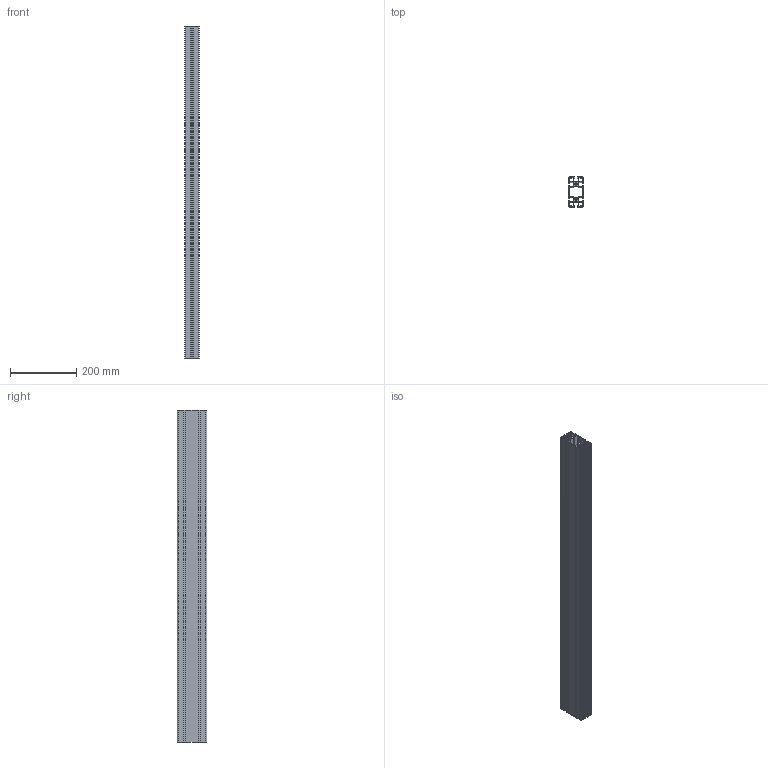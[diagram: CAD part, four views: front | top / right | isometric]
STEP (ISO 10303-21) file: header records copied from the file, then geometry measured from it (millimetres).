
FILE_DESCRIPTION (( 'STEP AP214' ), '1' );
FILE_NAME ('SA01003L.step', '2024-12-03T16:28:17', ( '' ), ( '' ), 'SwSTEP 2.0', 'SolidWorks 2023', '' );
FILE_SCHEMA (( 'AUTOMOTIVE_DESIGN' ));
Length unit declared in the file: millimetre
Products named in the file (1): SA01003L
Bounding box: 45 x 90 x 1000 mm (x, y, z)
Volume: 937566.9 mm3; surface area: 910714.9 mm2
Topology: 1 solids, 1 shells, 280 faces, 834 edges, 556 vertices
Faces by surface type: plane 184, cylinder 96
Full cylindrical faces by diameter (mm): 7.45 x2
Entity records: 9431 total; most frequent: CARTESIAN_POINT 1669, ORIENTED_EDGE 1664, DIRECTION 1586, EDGE_CURVE 832, VECTOR 640, LINE 640, VERTEX_POINT 556, AXIS2_PLACEMENT_3D 473
